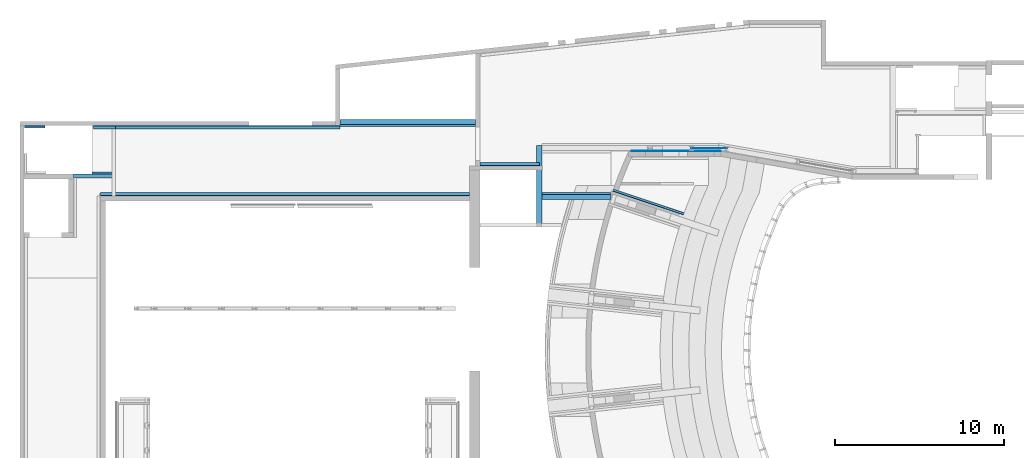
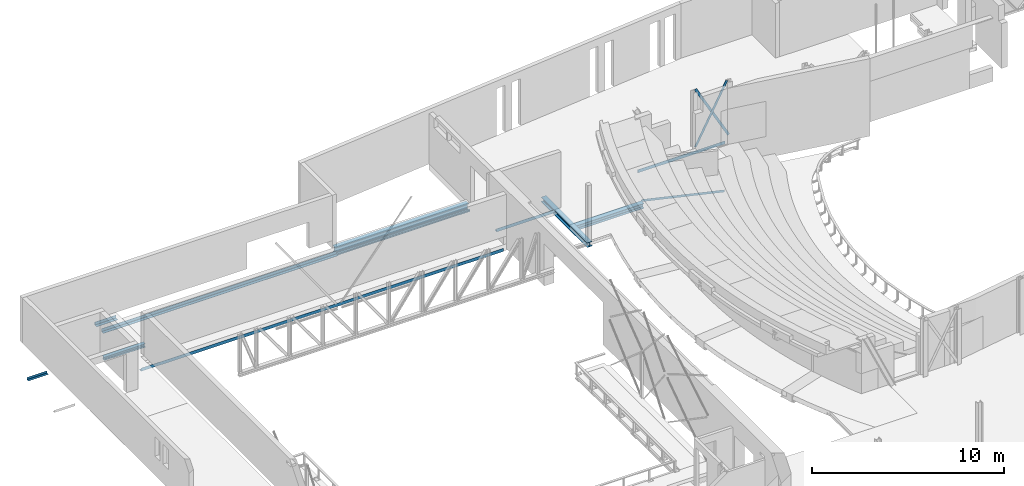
# One storey, part 26 of 68: 14 beams.
"""IFC2X3 building model written with IfcOpenShell, lengths in millimetres."""

from ifc_helpers import new_model, entity, si_unit, converted_unit, derived_unit, direction, frame, frame_2d, origin, origin_2d_with_axis, place, context, subcontext, project, spatial, polyline, circle_curve, parameter, trimmed, segment, composite_curve, rectangle, outline, extrude, source, transform, mapped, material, material_list, type_object, type_shapes, element, save


model = new_model("IFC2X3")

# Units and contexts
model_context = context("Model", 3, precision=0.01, world=origin(), true_north=direction((6.12303176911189e-17, 1.0)))
body_context = subcontext(model_context, "Body", "Model", "MODEL_VIEW")
ifc_project = project(units=[si_unit("LENGTHUNIT", "METRE", prefix="MILLI"), si_unit("AREAUNIT", "SQUARE_METRE", prefix="MILLI"), si_unit("VOLUMEUNIT", "CUBIC_METRE"), converted_unit("PLANEANGLEUNIT", "DEGREE", entity("IfcRatioMeasure", 0.0174532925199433), si_unit("PLANEANGLEUNIT", "RADIAN"), dimensions=[0, 0, 0, 0, 0, 0, 0]), si_unit("MASSUNIT", "GRAM", prefix="KILO"), derived_unit("MASSDENSITYUNIT", [(si_unit("MASSUNIT", "GRAM", prefix="KILO"), 1), (si_unit("LENGTHUNIT", "METRE"), -3)]), derived_unit("MOMENTOFINERTIAUNIT", [(si_unit("LENGTHUNIT", "METRE"), 4)]), si_unit("TIMEUNIT", "SECOND"), si_unit("FREQUENCYUNIT", "HERTZ"), si_unit("THERMODYNAMICTEMPERATUREUNIT", "DEGREE_CELSIUS"), derived_unit("THERMALTRANSMITTANCEUNIT", [(si_unit("MASSUNIT", "GRAM", prefix="KILO"), 1), (si_unit("THERMODYNAMICTEMPERATUREUNIT", "KELVIN"), -1), (si_unit("TIMEUNIT", "SECOND"), -3)]), derived_unit("VOLUMETRICFLOWRATEUNIT", [(si_unit("LENGTHUNIT", "METRE"), 3), (si_unit("TIMEUNIT", "SECOND"), -1)]), si_unit("ELECTRICCURRENTUNIT", "AMPERE"), si_unit("ELECTRICVOLTAGEUNIT", "VOLT"), si_unit("POWERUNIT", "WATT"), si_unit("FORCEUNIT", "NEWTON", prefix="KILO"), si_unit("ILLUMINANCEUNIT", "LUX"), si_unit("LUMINOUSFLUXUNIT", "LUMEN"), si_unit("LUMINOUSINTENSITYUNIT", "CANDELA"), derived_unit("USERDEFINED", [(si_unit("MASSUNIT", "GRAM", prefix="KILO"), -1), (si_unit("LENGTHUNIT", "METRE"), -2), (si_unit("TIMEUNIT", "SECOND"), 3), (si_unit("LUMINOUSFLUXUNIT", "LUMEN"), 1)]), derived_unit("LINEARVELOCITYUNIT", [(si_unit("LENGTHUNIT", "METRE"), 1), (si_unit("TIMEUNIT", "SECOND"), -1)]), si_unit("PRESSUREUNIT", "PASCAL"), derived_unit("USERDEFINED", [(si_unit("LENGTHUNIT", "METRE"), -2), (si_unit("MASSUNIT", "GRAM", prefix="KILO"), 1), (si_unit("TIMEUNIT", "SECOND"), -2)]), derived_unit("LINEARFORCEUNIT", [(si_unit("MASSUNIT", "GRAM", prefix="KILO"), 1), (si_unit("LENGTHUNIT", "METRE"), 1), (si_unit("TIMEUNIT", "SECOND"), -2), (si_unit("LENGTHUNIT", "METRE"), -1)]), derived_unit("PLANARFORCEUNIT", [(si_unit("MASSUNIT", "GRAM", prefix="KILO"), 1), (si_unit("LENGTHUNIT", "METRE"), 1), (si_unit("TIMEUNIT", "SECOND"), -2), (si_unit("LENGTHUNIT", "METRE"), -2)])], contexts=[model_context])

# Site, building, storey
site_placement = place(None, origin())
site = spatial("IfcSite", under=ifc_project, at=site_placement, Name="Theater aan de Parade", CompositionType="ELEMENT")
building_placement = place(site_placement, origin())
building = spatial("IfcBuilding", under=site, at=building_placement, Name="Theater aan de Parade", CompositionType="ELEMENT")
storey_placement = place(building_placement, frame((0.0, 0.0, 8750.0)))
storey = spatial("IfcBuildingStorey", under=building, at=storey_placement, Name="02 tweede verdieping", CompositionType="ELEMENT", Elevation=8750.0)

# Beams
ifc_material_1 = material(Name="00_PBT_MAT_staal_S355")
beam_type_1 = type_object("IfcBeamType", Name="28_PBT_SF_staal_H-profiel (void):S355_HE300B", PredefinedType="NOTDEFINED")
beam_1_placement = place(storey_placement, frame((40963.8581275, 39725.0, 0.0), z_axis=(0.0, 0.0, 1.0), x_axis=(0.0, 1.0, 0.0)))
element("IfcBeam", 1, at=beam_1_placement, inside=storey, type_object=beam_type_1, material=ifc_material_1, Name="28_PBT_SF_staal_H-profiel (void):S355_HE300B", ObjectType="28_PBT_SF_staal_H-profiel (void):S355_HE300B", context=body_context, shape_type="SweptSolid", body=[
    extrude(outline(composite_curve([segment(polyline([(131.0, -150.0), (150.0, -150.0)]), True, "CONTINUOUS"), segment(polyline([(150.0, -150.0), (150.0, 150.0)]), True, "CONTINUOUS"), segment(polyline([(150.0, 150.0), (131.0, 150.0)]), True, "CONTINUOUS"), segment(polyline([(131.0, 150.0), (131.0, 32.5000000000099)]), True, "CONTINUOUS"), segment(trimmed(circle_curve(frame_2d((104.0, 32.5000000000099), x_axis=(1.0, 0.0)), 27.0000000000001), [parameter(270.0)], [parameter(0.0)], True, "PARAMETER"), False, "CONTINUOUS"), segment(polyline([(104.0, 5.50000000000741), (-104.0, 5.50000000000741)]), True, "CONTINUOUS"), segment(trimmed(circle_curve(frame_2d((-104.0, 32.5000000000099), x_axis=(0.0, -1.0)), 27.0000000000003), [parameter(270.0)], [parameter(0.0)], True, "PARAMETER"), False, "CONTINUOUS"), segment(polyline([(-131.0, 32.5000000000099), (-131.0, 150.0)]), True, "CONTINUOUS"), segment(polyline([(-131.0, 150.0), (-150.0, 150.0)]), True, "CONTINUOUS"), segment(polyline([(-150.0, 150.0), (-150.0, -150.0)]), True, "CONTINUOUS"), segment(polyline([(-150.0, -150.0), (-131.0, -150.0)]), True, "CONTINUOUS"), segment(polyline([(-131.0, -150.0), (-131.0, -32.4999999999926)]), True, "CONTINUOUS"), segment(trimmed(circle_curve(frame_2d((-104.0, -32.4999999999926), x_axis=(-1.0, 0.0)), 27.0000000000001), [parameter(270.0)], [parameter(0.0)], True, "PARAMETER"), False, "CONTINUOUS"), segment(polyline([(-104.0, -5.49999999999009), (104.0, -5.49999999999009)]), True, "CONTINUOUS"), segment(trimmed(circle_curve(frame_2d((104.0, -32.4999999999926), x_axis=(0.0, 1.0)), 27.0000000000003), [parameter(270.0)], [parameter(0.0)], True, "PARAMETER"), False, "CONTINUOUS"), segment(polyline([(131.0, -32.4999999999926), (131.0, -150.0)]), True, "CONTINUOUS")], self_intersect=False)), frame((0.0, 0.0, -310.0), z_axis=(1.0, 0.0, 0.0), x_axis=(0.0, 0.0, -1.0)), (0.0, 0.0, 1.0), 4820.00000559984),
])
beam_type_2 = type_object("IfcBeamType", Name="28_PBT_SF_staal_L-profiel:S355_L150x150x15", PredefinedType="NOTDEFINED")
beam_2_placement = place(storey_placement, frame((45310.3317535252, 41879.8108323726, 0.0), z_axis=(0.0, 0.0, 1.0), x_axis=(0.948323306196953, -0.317305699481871, 0.0)))
element("IfcBeam", 2, at=beam_2_placement, inside=storey, type_object=beam_type_2, material=ifc_material_1, Name="28_PBT_SF_staal_L-profiel:S355_L150x150x15", ObjectType="28_PBT_SF_staal_L-profiel:S355_L150x150x15", context=body_context, shape_type="SweptSolid", body=[
    extrude(outline(composite_curve([segment(polyline([(-93.3333333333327, -56.6666666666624), (56.6666666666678, -56.6666666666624)]), True, "CONTINUOUS"), segment(polyline([(56.6666666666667, -56.6666666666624), (56.6666666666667, 93.3333333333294)]), True, "CONTINUOUS"), segment(polyline([(56.6666666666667, 93.3333333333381), (49.6666666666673, 93.3333333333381)]), True, "CONTINUOUS"), segment(trimmed(circle_curve(frame_2d((49.6666666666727, 85.3333333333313), x_axis=(0.0, 1.0)), 8.000000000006), [parameter(0.0)], [parameter(89.9999999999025)], True, "PARAMETER"), True, "CONTINUOUS"), segment(polyline([(41.6666666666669, 85.3333333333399), (41.6666666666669, -25.6666666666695)]), True, "CONTINUOUS"), segment(trimmed(circle_curve(frame_2d((25.6666666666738, -25.6666666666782), x_axis=(1.0, 0.0)), 15.9999999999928), [parameter(269.999999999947)], [parameter(0.0)], True, "PARAMETER"), False, "CONTINUOUS"), segment(polyline([(25.6666666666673, -41.6666666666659), (-85.3333333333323, -41.6666666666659)]), True, "CONTINUOUS"), segment(trimmed(circle_curve(frame_2d((-85.333333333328, -49.6666666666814), x_axis=(0.0, 1.0)), 8.000000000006), [parameter(0.0)], [parameter(89.9999999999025)], True, "PARAMETER"), True, "CONTINUOUS"), segment(polyline([(-93.3333333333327, -49.6666666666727), (-93.3333333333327, -56.6666666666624)]), True, "CONTINUOUS")], self_intersect=False)), frame((0.0, 14.1666666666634, -338.333333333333), z_axis=(1.0, 0.0, 0.0), x_axis=(0.0, 0.0, -1.0)), (0.0, 0.0, 1.0), 4403.43038959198),
])
beam_3_placement = place(storey_placement, frame((10574.1125537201, 45680.4999999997, 0.0)))
element("IfcBeam", 3, at=beam_3_placement, inside=storey, type_object=beam_type_2, material=ifc_material_1, Name="28_PBT_SF_staal_L-profiel:S355_L150x150x15", ObjectType="28_PBT_SF_staal_L-profiel:S355_L150x150x15", context=body_context, shape_type="SweptSolid", body=[
    extrude(outline(composite_curve([segment(polyline([(49.6666666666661, -93.3333333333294), (56.6666666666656, -93.3333333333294)]), True, "CONTINUOUS"), segment(polyline([(56.6666666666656, -93.3333333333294), (56.6666666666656, 56.6666666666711)]), True, "CONTINUOUS"), segment(polyline([(56.6666666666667, 56.6666666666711), (-93.3333333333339, 56.6666666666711)]), True, "CONTINUOUS"), segment(polyline([(-93.3333333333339, 56.6666666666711), (-93.3333333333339, 49.6666666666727)]), True, "CONTINUOUS"), segment(trimmed(circle_curve(frame_2d((-85.3333333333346, 49.6666666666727), x_axis=(-1.0, 0.0)), 7.99999999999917), [parameter(0.0)], [parameter(90.0000000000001)], True, "PARAMETER"), True, "CONTINUOUS"), segment(polyline([(-85.3333333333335, 41.6666666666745), (25.6666666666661, 41.6666666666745)]), True, "CONTINUOUS"), segment(trimmed(circle_curve(frame_2d((25.6666666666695, 25.6666666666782), x_axis=(0.0, 1.0)), 15.9999999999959), [parameter(269.999999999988)], [parameter(0.0)], True, "PARAMETER"), False, "CONTINUOUS"), segment(polyline([(41.6666666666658, 25.6666666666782), (41.6666666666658, -85.3333333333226)]), True, "CONTINUOUS"), segment(trimmed(circle_curve(frame_2d((49.6666666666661, -85.3333333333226), x_axis=(-1.0, 0.0)), 7.99999999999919), [parameter(0.0)], [parameter(90.0000000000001)], True, "PARAMETER"), True, "CONTINUOUS")], self_intersect=False)), frame((0.0, -14.1666666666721, -1848.33333333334), z_axis=(1.0, 0.0, 0.0), x_axis=(0.0, 0.0, -1.0)), (0.0, 0.0, 1.0), 1205.21531551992),
])
beam_type_3 = type_object("IfcBeamType", Name="28_PBT_SF_staal_L-profiel:S355_L200x200x20", PredefinedType="NOTDEFINED")
beam_4_placement = place(storey_placement, frame((15053.8570025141, 41630.1083270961, 0.0)))
element("IfcBeam", 4, at=beam_4_placement, inside=storey, type_object=beam_type_3, material=ifc_material_1, Name="28_PBT_SF_staal_L-profiel:S355_L200x200x20", ObjectType="28_PBT_SF_staal_L-profiel:S355_L200x200x20", context=body_context, shape_type="SweptSolid", body=[
    extrude(outline(composite_curve([segment(polyline([(-124.444444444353, -75.5555555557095), (75.555555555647, -75.5555555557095)]), True, "CONTINUOUS"), segment(polyline([(75.555555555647, -75.555555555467), (75.5555555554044, 124.444444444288)]), True, "CONTINUOUS"), segment(polyline([(75.5555555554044, 124.444444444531), (64.5555555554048, 124.444444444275)]), True, "CONTINUOUS"), segment(trimmed(circle_curve(frame_2d((64.5555555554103, 115.44444444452), x_axis=(0.0, 1.0)), 8.99999999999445), [parameter(0.0)], [parameter(90.0000000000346)], True, "PARAMETER"), True, "CONTINUOUS"), segment(polyline([(55.5555555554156, 115.444444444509), (55.5555555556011, -37.5555555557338)]), True, "CONTINUOUS"), segment(trimmed(circle_curve(frame_2d((37.5555555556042, -37.555555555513), x_axis=(1.0, 0.0)), 17.9999999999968), [parameter(269.99999999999)], [parameter(0.0)], True, "PARAMETER"), False, "CONTINUOUS"), segment(polyline([(37.5555555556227, -55.5555555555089), (-115.444444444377, -55.5555555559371)]), True, "CONTINUOUS"), segment(trimmed(circle_curve(frame_2d((-115.444444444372, -64.5555555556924), x_axis=(0.0, 1.0)), 8.99999999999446), [parameter(0.0)], [parameter(90.0000000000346)], True, "PARAMETER"), True, "CONTINUOUS"), segment(polyline([(-124.444444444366, -64.5555555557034), (-124.444444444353, -75.5555555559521)]), True, "CONTINUOUS")], self_intersect=False)), frame((0.0, 18.7555555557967, -349.444444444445), z_axis=(1.0, 0.0, 0.0), x_axis=(0.0, 0.0, -1.0)), (0.0, 0.0, 1.0), 21800.0011275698),
])
beam_5_placement = place(storey_placement, frame((15053.8570025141, 45666.1999999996, 0.0)))
element("IfcBeam", 5, at=beam_5_placement, inside=storey, type_object=beam_type_3, material=ifc_material_1, Name="28_PBT_SF_staal_L-profiel:S355_L200x200x20", ObjectType="28_PBT_SF_staal_L-profiel:S355_L200x200x20", context=body_context, shape_type="SweptSolid", body=[
    extrude(outline(composite_curve([segment(polyline([(64.5555555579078, -124.44444444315), (75.5555555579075, -124.44444444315)]), True, "CONTINUOUS"), segment(polyline([(75.5555555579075, -124.444444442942), (75.5555555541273, 75.5555555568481)]), True, "CONTINUOUS"), segment(polyline([(75.5555555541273, 75.555555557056), (-124.444444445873, 75.5555555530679)]), True, "CONTINUOUS"), segment(polyline([(-124.444444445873, 75.5555555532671), (-124.444444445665, 64.5555555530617)]), True, "CONTINUOUS"), segment(trimmed(circle_curve(frame_2d((-115.44444444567, 64.5555555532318), x_axis=(-1.0, 0.0)), 8.99999999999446), [parameter(0.0)], [parameter(90.0000000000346)], True, "PARAMETER"), True, "CONTINUOUS"), segment(polyline([(-115.444444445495, 55.5555555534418), (37.5555555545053, 55.5555555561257)]), True, "CONTINUOUS"), segment(trimmed(circle_curve(frame_2d((37.5555555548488, 37.5555555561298), x_axis=(0.0, 1.0)), 17.9999999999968), [parameter(269.99999999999)], [parameter(0.0)], True, "PARAMETER"), False, "CONTINUOUS"), segment(polyline([(55.5555555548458, 37.5555555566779), (55.5555555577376, -115.44444444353)]), True, "CONTINUOUS"), segment(trimmed(circle_curve(frame_2d((64.5555555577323, -115.44444444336), x_axis=(-1.0, 0.0)), 8.99999999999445), [parameter(0.0)], [parameter(90.0000000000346)], True, "PARAMETER"), True, "CONTINUOUS")], self_intersect=False)), frame((0.0, -18.7555555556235, -349.444444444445), z_axis=(1.0, 0.0, 0.0), x_axis=(0.0, 0.0, -1.0)), (0.0, 0.0, 1.0), 14135.0405637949),
])
beam_6_placement = place(storey_placement, frame((14654.303232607, 45666.1999999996, 0.0)))
element("IfcBeam", 6, at=beam_6_placement, inside=storey, type_object=beam_type_3, material=ifc_material_1, Name="28_PBT_SF_staal_L-profiel:S355_L200x200x20", ObjectType="28_PBT_SF_staal_L-profiel:S355_L200x200x20", context=body_context, shape_type="SweptSolid", body=[
    extrude(outline(composite_curve([segment(polyline([(64.5555555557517, -124.444444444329), (75.5555555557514, -124.444444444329)]), True, "CONTINUOUS"), segment(polyline([(75.5555555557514, -124.444444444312), (75.5555555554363, 75.5555555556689)]), True, "CONTINUOUS"), segment(polyline([(75.5555555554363, 75.5555555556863), (-124.444444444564, 75.5555555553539)]), True, "CONTINUOUS"), segment(polyline([(-124.444444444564, 75.5555555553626), (-124.444444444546, 64.5555555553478)]), True, "CONTINUOUS"), segment(trimmed(circle_curve(frame_2d((-115.444444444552, 64.5555555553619), x_axis=(-1.0, 0.0)), 8.99999999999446), [parameter(0.0)], [parameter(90.0000000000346)], True, "PARAMETER"), True, "CONTINUOUS"), segment(polyline([(-115.444444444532, 55.5555555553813), (37.5555555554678, 55.555555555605)]), True, "CONTINUOUS"), segment(trimmed(circle_curve(frame_2d((37.5555555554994, 37.5555555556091), x_axis=(0.0, 1.0)), 17.9999999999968), [parameter(269.99999999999)], [parameter(0.0)], True, "PARAMETER"), False, "CONTINUOUS"), segment(polyline([(55.5555555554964, 37.5555555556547), (55.5555555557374, -115.444444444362)]), True, "CONTINUOUS"), segment(trimmed(circle_curve(frame_2d((64.5555555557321, -115.444444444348), x_axis=(-1.0, 0.0)), 8.99999999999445), [parameter(0.0)], [parameter(90.0000000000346)], True, "PARAMETER"), True, "CONTINUOUS")], self_intersect=False)), frame((0.0, -18.7555555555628, 215.555555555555), z_axis=(1.0, 0.0, 0.0), x_axis=(0.0, 0.0, -1.0)), (0.0, 0.0, 1.0), 1280.69676739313),
])
beam_7_placement = place(storey_placement, frame((40963.8581275, 43406.8000000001, 0.0), z_axis=(0.0, 0.0, 1.0), x_axis=(-1.0, 0.0, 0.0)))
element("IfcBeam", 7, at=beam_7_placement, inside=storey, type_object=beam_type_3, material=ifc_material_1, Name="28_PBT_SF_staal_L-profiel:S355_L200x200x20", ObjectType="28_PBT_SF_staal_L-profiel:S355_L200x200x20", context=body_context, shape_type="SweptSolid", body=[
    extrude(outline(composite_curve([segment(polyline([(64.5555555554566, -124.444444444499), (75.5555555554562, -124.444444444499)]), True, "CONTINUOUS"), segment(polyline([(75.5555555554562, -124.444444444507), (75.5555555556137, 75.5555555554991)]), True, "CONTINUOUS"), segment(polyline([(75.5555555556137, 75.5555555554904), (-124.444444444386, 75.5555555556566)]), True, "CONTINUOUS"), segment(polyline([(-124.444444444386, 75.5555555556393), (-124.444444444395, 64.5555555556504)]), True, "CONTINUOUS"), segment(trimmed(circle_curve(frame_2d((-115.4444444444, 64.5555555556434), x_axis=(-1.0, 0.0)), 8.99999999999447), [parameter(0.0)], [parameter(90.0000000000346)], True, "PARAMETER"), True, "CONTINUOUS"), segment(polyline([(-115.444444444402, 55.5555555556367), (37.555555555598, 55.5555555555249)]), True, "CONTINUOUS"), segment(trimmed(circle_curve(frame_2d((37.5555555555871, 37.555555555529), x_axis=(0.0, 1.0)), 17.9999999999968), [parameter(269.99999999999)], [parameter(0.0)], True, "PARAMETER"), False, "CONTINUOUS"), segment(polyline([(55.555555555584, 37.5555555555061), (55.5555555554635, -115.444444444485)]), True, "CONTINUOUS"), segment(trimmed(circle_curve(frame_2d((64.5555555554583, -115.444444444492), x_axis=(-1.0, 0.0)), 8.99999999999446), [parameter(0.0)], [parameter(90.0000000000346)], True, "PARAMETER"), True, "CONTINUOUS")], self_intersect=False)), frame((0.0, -18.7555555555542, -409.444444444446), z_axis=(1.0, 0.0, 0.0), x_axis=(0.0, 0.0, -1.0)), (0.0, 0.0, 1.0), 3509.99999741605),
])
ifc_material_2 = material(Name="00_PBT_MAT_staal_S235")
beam_type_4 = type_object("IfcBeamType", Name="28_PBT_SF_staal_koker:S235_K80x120x6.3", PredefinedType="NOTDEFINED")
beam_8_placement = place(storey_placement, frame((29188.8975663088, 45675.0, 0.0)))
element("IfcBeam", 8, at=beam_8_placement, inside=storey, type_object=beam_type_4, material=ifc_material_2, Name="28_PBT_SF_staal_koker:S235_K80x120x6.3", ObjectType="28_PBT_SF_staal_koker:S235_K80x120x6.3", context=body_context, shape_type="SweptSolid", body=[
    extrude(outline(composite_curve([segment(polyline([(-30.5500000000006, -60.0), (30.5499999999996, -60.0)]), True, "CONTINUOUS"), segment(trimmed(circle_curve(frame_2d((30.5499999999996, -50.5500000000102), x_axis=(0.0, 1.0)), 9.45), [parameter(180.0)], [parameter(270.0)], True, "PARAMETER"), True, "CONTINUOUS"), segment(polyline([(40.0, -50.5500000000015), (40.0, 50.5500000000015)]), True, "CONTINUOUS"), segment(trimmed(circle_curve(frame_2d((30.5499999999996, 50.5499999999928), x_axis=(0.0, 1.0)), 9.45), [parameter(270.0)], [parameter(360.0)], True, "PARAMETER"), True, "CONTINUOUS"), segment(polyline([(30.5499999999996, 60.0), (-30.5500000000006, 60.0)]), True, "CONTINUOUS"), segment(trimmed(circle_curve(frame_2d((-30.5500000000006, 50.5499999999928), x_axis=(0.0, 1.0)), 9.45), [parameter(0.0)], [parameter(90.0000000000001)], True, "PARAMETER"), True, "CONTINUOUS"), segment(polyline([(-40.0, 50.5500000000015), (-40.0, -50.5500000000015)]), True, "CONTINUOUS"), segment(trimmed(circle_curve(frame_2d((-30.5500000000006, -50.5500000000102), x_axis=(0.0, 1.0)), 9.45), [parameter(90.0)], [parameter(180.0)], True, "PARAMETER"), True, "CONTINUOUS")], self_intersect=False), holes=[composite_curve([segment(polyline([(33.6999999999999, 47.3999999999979), (33.6999999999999, -47.3999999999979)]), True, "CONTINUOUS"), segment(trimmed(circle_curve(frame_2d((27.3999999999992, -47.4000000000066), x_axis=(0.0, 1.0)), 6.3), [parameter(180.0)], [parameter(270.0)], True, "PARAMETER"), False, "CONTINUOUS"), segment(polyline([(27.3999999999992, -53.6999999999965), (-27.4000000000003, -53.6999999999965)]), True, "CONTINUOUS"), segment(trimmed(circle_curve(frame_2d((-27.4000000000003, -47.4000000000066), x_axis=(0.0, 1.0)), 6.3), [parameter(90.0)], [parameter(180.0)], True, "PARAMETER"), False, "CONTINUOUS"), segment(polyline([(-33.6999999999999, -47.3999999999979), (-33.6999999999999, 47.3999999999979)]), True, "CONTINUOUS"), segment(trimmed(circle_curve(frame_2d((-27.4000000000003, 47.3999999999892), x_axis=(0.0, 1.0)), 6.3), [parameter(4.07110999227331e-13)], [parameter(90.0000000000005)], True, "PARAMETER"), False, "CONTINUOUS"), segment(polyline([(-27.4000000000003, 53.6999999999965), (27.3999999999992, 53.6999999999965)]), True, "CONTINUOUS"), segment(trimmed(circle_curve(frame_2d((27.3999999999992, 47.3999999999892), x_axis=(0.0, 1.0)), 6.3), [parameter(270.0)], [parameter(360.0)], True, "PARAMETER"), False, "CONTINUOUS")], self_intersect=False)]), frame((0.0, 60.0, -445.0), z_axis=(1.0, 0.0, 0.0), x_axis=(0.0, 0.0, 1.0)), (0.0, 0.0, 1.0), 8014.96056377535),
])
ifc_material_3 = material(Name="00_PBT_MAT_staal")
beam_type_5 = type_object("IfcBeamType", Name="28_PBT_SF_staal_strip:strip 10x150", PredefinedType="NOTDEFINED")
beam_9_placement = place(storey_placement, frame((49940.268563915, 44395.0, -236.716158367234), z_axis=(0.8837857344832, 0.0, -0.467891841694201), x_axis=(0.467891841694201, 0.0, 0.8837857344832)))
element("IfcBeam", 9, at=beam_9_placement, inside=storey, type_object=beam_type_5, material=ifc_material_3, Name="28_PBT_SF_staal_strip:strip 10x150", ObjectType="28_PBT_SF_staal_strip:strip 10x150", context=body_context, shape_type="SweptSolid", body=[
    extrude(rectangle(XDim=150.000000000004, YDim=9.99999999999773, at=frame_2d((-4.83879603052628e-12, 0.0), x_axis=(1.0, 0.0))), frame((147.581027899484, 0.0, 0.0), z_axis=(1.0, 0.0, 0.0), x_axis=(0.0, 0.0, -1.0)), (0.0, 0.0, 1.0), 4038.96458765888),
])
beam_10_placement = place(storey_placement, frame((49944.0642577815, 44395.0, 3699.43295331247), z_axis=(0.87404997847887, 0.0, 0.48583601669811), x_axis=(0.48583601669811, 0.0, -0.87404997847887)))
element("IfcBeam", 10, at=beam_10_placement, inside=storey, type_object=beam_type_5, material=ifc_material_3, Name="28_PBT_SF_staal_strip:strip 10x150", ObjectType="28_PBT_SF_staal_strip:strip 10x150", context=body_context, shape_type="SweptSolid", body=[
    extrude(rectangle(XDim=149.999999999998, YDim=9.99999999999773, at=origin_2d_with_axis()), frame((147.581027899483, 0.0, 0.0), z_axis=(1.0, 0.0, 0.0), x_axis=(0.0, 0.0, -1.0)), (0.0, 0.0, 1.0), 4102.19871328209),
])
ifc_material_4 = material(Name="00_PBT_MAT_Lucht")
ifc_material_list_1 = material_list([ifc_material_4, ifc_material_1])
beam_type_6 = type_object("IfcBeamType", Name="28_PBT_SF_staal_H-profiel_met_ondergelaste_strip (void):S355_HE400B + ondergelaste strip", PredefinedType="BEAM", material=ifc_material_list_1)
shared_shape_1 = source(origin(), body_context, "Body", "SweptSolid", [
    extrude(outline(composite_curve([segment(polyline([(176.0, -150.0), (200.0, -150.0)]), True, "CONTINUOUS"), segment(polyline([(200.0, -150.0), (200.0, 150.0)]), True, "CONTINUOUS"), segment(polyline([(200.0, 150.0), (176.0, 150.0)]), True, "CONTINUOUS"), segment(polyline([(176.0, 150.0), (176.0, 33.7499999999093)]), True, "CONTINUOUS"), segment(trimmed(circle_curve(frame_2d((149.0, 33.7499999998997), x_axis=(1.0, 0.0)), 27.0000000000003), [parameter(270.0)], [parameter(0.0)], True, "PARAMETER"), False, "CONTINUOUS"), segment(polyline([(149.0, 6.74999999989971), (-149.0, 6.75000000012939)]), True, "CONTINUOUS"), segment(trimmed(circle_curve(frame_2d((-149.0, 33.7500000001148), x_axis=(0.0, -1.0)), 27.0000000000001), [parameter(270.0)], [parameter(0.0)], True, "PARAMETER"), False, "CONTINUOUS"), segment(polyline([(-176.0, 33.7500000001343), (-176.0, 150.0)]), True, "CONTINUOUS"), segment(polyline([(-176.0, 150.0), (-200.0, 150.0)]), True, "CONTINUOUS"), segment(polyline([(-200.0, 150.0), (-200.0, -150.0)]), True, "CONTINUOUS"), segment(polyline([(-200.0, -150.0), (-176.0, -150.0)]), True, "CONTINUOUS"), segment(polyline([(-176.0, -150.0), (-176.0, -33.7499999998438)]), True, "CONTINUOUS"), segment(trimmed(circle_curve(frame_2d((-149.0, -33.7499999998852), x_axis=(-1.0, 0.0)), 27.0000000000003), [parameter(270.0)], [parameter(0.0)], True, "PARAMETER"), False, "CONTINUOUS"), segment(polyline([(-149.0, -6.74999999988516), (149.0, -6.75000000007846)]), True, "CONTINUOUS"), segment(trimmed(circle_curve(frame_2d((149.0, -33.7500000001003), x_axis=(0.0, 1.0)), 27.0000000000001), [parameter(270.0)], [parameter(0.0)], True, "PARAMETER"), False, "CONTINUOUS"), segment(polyline([(176.0, -33.7500000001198), (176.0, -150.0)]), True, "CONTINUOUS")], self_intersect=False)), frame((29188.8975663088, 45950.0, 8465.0), z_axis=(1.0, 0.0, 0.0), x_axis=(0.0, 0.0, -1.0)), (0.0, 0.0, 1.0), 8014.96056377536),
    extrude(rectangle(XDim=14.9999999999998, YDim=420.0, at=frame_2d((0.0, 2.16573425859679e-11), x_axis=(1.0, 0.0))), frame((29189.8975663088, 45885.0, 8257.5), z_axis=(1.0, 0.0, 0.0), x_axis=(0.0, 0.0, -1.0)), (0.0, 0.0, 1.0), 8012.96056377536),
])
type_shapes(beam_type_6, [shared_shape_1])
beam_11_placement = place(storey_placement, frame((0.0, 0.0, -8750.0)))
element("IfcBeam", 11, at=beam_11_placement, inside=storey, type_object=beam_type_6, material=ifc_material_1, Name="28_PBT_SF_staal_H-profiel_met_ondergelaste_strip (void):S355_HE400B + ondergelaste strip", ObjectType="28_PBT_SF_staal_H-profiel_met_ondergelaste_strip (void):S355_HE400B + ondergelaste strip", context=body_context, shape_type="MappedRepresentation", body=[
    mapped(shared_shape_1, transform((0.0, 0.0, 0.0), scale=1.0)),
])
ifc_material_list_2 = material_list([ifc_material_1, ifc_material_4])
beam_type_7 = type_object("IfcBeamType", Name="28_PBT_SF_staal_H-profiel_met_ondergelaste_strip (void):S355_HE220A + ondergelaste strip d=12", PredefinedType="BEAM", material=ifc_material_list_2)
shared_shape_2 = source(origin(), body_context, "Body", "SweptSolid", [
    extrude(outline(composite_curve([segment(polyline([(94.0, -110.0), (105.0, -110.0)]), True, "CONTINUOUS"), segment(polyline([(105.0, -110.0), (105.0, 110.0)]), True, "CONTINUOUS"), segment(polyline([(105.0, 110.0), (94.0, 110.0)]), True, "CONTINUOUS"), segment(polyline([(94.0, 110.0), (94.0, 21.5000000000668)]), True, "CONTINUOUS"), segment(trimmed(circle_curve(frame_2d((76.0, 21.5000000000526), x_axis=(1.0, 0.0)), 17.9999999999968), [parameter(269.99999999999)], [parameter(0.0)], True, "PARAMETER"), False, "CONTINUOUS"), segment(polyline([(76.0, 3.50000000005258), (-76.0, 3.4999999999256)]), True, "CONTINUOUS"), segment(trimmed(circle_curve(frame_2d((-76.0, 21.4999999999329), x_axis=(0.0, -1.0)), 17.9999999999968), [parameter(269.99999999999)], [parameter(0.0)], True, "PARAMETER"), False, "CONTINUOUS"), segment(polyline([(-94.0, 21.4999999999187), (-94.0, 110.0)]), True, "CONTINUOUS"), segment(polyline([(-94.0, 110.0), (-105.0, 110.0)]), True, "CONTINUOUS"), segment(polyline([(-105.0, 110.0), (-105.0, -110.0)]), True, "CONTINUOUS"), segment(polyline([(-105.0, -110.0), (-94.0, -110.0)]), True, "CONTINUOUS"), segment(polyline([(-94.0, -110.0), (-94.0, -21.5000000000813)]), True, "CONTINUOUS"), segment(trimmed(circle_curve(frame_2d((-76.0, -21.5000000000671), x_axis=(-1.0, 0.0)), 17.9999999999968), [parameter(269.99999999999)], [parameter(0.0)], True, "PARAMETER"), False, "CONTINUOUS"), segment(polyline([(-76.0, -3.50000000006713), (76.0, -3.4999999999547)]), True, "CONTINUOUS"), segment(trimmed(circle_curve(frame_2d((76.0, -21.4999999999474), x_axis=(0.0, 1.0)), 17.9999999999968), [parameter(269.99999999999)], [parameter(0.0)], True, "PARAMETER"), False, "CONTINUOUS"), segment(polyline([(94.0, -21.4999999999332), (94.0, -110.0)]), True, "CONTINUOUS")], self_intersect=False)), frame((13454.8570025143, 42760.0, 9015.0), z_axis=(1.0, 0.0, 0.0), x_axis=(0.0, 0.0, -1.0)), (0.0, 0.0, 1.0), 2480.14299748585),
    extrude(rectangle(XDim=12.0000000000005, YDim=340.000000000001, at=frame_2d((0.0, -4.33431068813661e-12), x_axis=(1.0, 0.0))), frame((14563.8570025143, 42825.0, 8904.0), z_axis=(1.0, 0.0, 0.0), x_axis=(0.0, 0.0, -1.0)), (0.0, 0.0, 1.0), 1370.14299748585),
])
type_shapes(beam_type_7, [shared_shape_2])
beam_12_placement = place(storey_placement, frame((0.0, 0.0, -8750.0)))
element("IfcBeam", 12, at=beam_12_placement, inside=storey, type_object=beam_type_7, material=ifc_material_1, Name="28_PBT_SF_staal_H-profiel_met_ondergelaste_strip (void):S355_HE220A + ondergelaste strip d=12", ObjectType="28_PBT_SF_staal_H-profiel_met_ondergelaste_strip (void):S355_HE220A + ondergelaste strip d=12", context=body_context, shape_type="MappedRepresentation", body=[
    mapped(shared_shape_2, transform((0.0, 0.0, 0.0), scale=1.0)),
])
ifc_material_list_3 = material_list([ifc_material_1, ifc_material_4])
beam_type_8 = type_object("IfcBeamType", Name="28_PBT_SF_staal_H-profiel_met_ondergelaste_strip (void):S355_HE300B + ondergelaste strip d=12", PredefinedType="BEAM", material=ifc_material_list_3)
shared_shape_3 = source(origin(), body_context, "Body", "SweptSolid", [
    extrude(outline(composite_curve([segment(polyline([(131.0, -150.0), (150.0, -150.0)]), True, "CONTINUOUS"), segment(polyline([(150.0, -150.0), (150.0, 150.0)]), True, "CONTINUOUS"), segment(polyline([(150.0, 150.0), (131.0, 150.0)]), True, "CONTINUOUS"), segment(polyline([(131.0, 150.0), (131.0, 32.5000000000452)]), True, "CONTINUOUS"), segment(trimmed(circle_curve(frame_2d((104.0, 32.5000000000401), x_axis=(1.0, 0.0)), 27.0000000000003), [parameter(270.0)], [parameter(0.0)], True, "PARAMETER"), False, "CONTINUOUS"), segment(polyline([(104.0, 5.50000000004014), (-104.0, 5.49999999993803)]), True, "CONTINUOUS"), segment(trimmed(circle_curve(frame_2d((-104.0, 32.4999999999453), x_axis=(0.0, -1.0)), 27.0000000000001), [parameter(270.0)], [parameter(0.0)], True, "PARAMETER"), False, "CONTINUOUS"), segment(polyline([(-131.0, 32.499999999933), (-131.0, 150.0)]), True, "CONTINUOUS"), segment(polyline([(-131.0, 150.0), (-150.0, 150.0)]), True, "CONTINUOUS"), segment(polyline([(-150.0, 150.0), (-150.0, -150.0)]), True, "CONTINUOUS"), segment(polyline([(-150.0, -150.0), (-131.0, -150.0)]), True, "CONTINUOUS"), segment(polyline([(-131.0, -150.0), (-131.0, -32.5000000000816)]), True, "CONTINUOUS"), segment(trimmed(circle_curve(frame_2d((-104.0, -32.5000000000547), x_axis=(-1.0, 0.0)), 27.0000000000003), [parameter(270.0)], [parameter(0.0)], True, "PARAMETER"), False, "CONTINUOUS"), segment(polyline([(-104.0, -5.50000000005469), (104.0, -5.49999999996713)]), True, "CONTINUOUS"), segment(trimmed(circle_curve(frame_2d((104.0, -32.4999999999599), x_axis=(0.0, 1.0)), 27.0000000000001), [parameter(270.0)], [parameter(0.0)], True, "PARAMETER"), False, "CONTINUOUS"), segment(polyline([(131.0, -32.4999999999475), (131.0, -150.0)]), True, "CONTINUOUS")], self_intersect=False)), frame((45185.0, 41510.0, 8435.0), z_axis=(-1.0, 0.0, 0.0), x_axis=(0.0, 0.0, -1.0)), (0.0, 0.0, 1.0), 4071.14187250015),
    extrude(rectangle(XDim=12.0000000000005, YDim=420.0, at=frame_2d((0.0, -4.32009983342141e-12), x_axis=(1.0, 0.0))), frame((45184.0, 41575.0, 8279.0), z_axis=(-1.0, 0.0, 0.0), x_axis=(0.0, 0.0, -1.0)), (0.0, 0.0, 1.0), 4069.14187250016),
])
type_shapes(beam_type_8, [shared_shape_3])
beam_13_placement = place(storey_placement, frame((0.0, 0.0, -8750.0)))
element("IfcBeam", 13, at=beam_13_placement, inside=storey, type_object=beam_type_8, material=ifc_material_1, Name="28_PBT_SF_staal_H-profiel_met_ondergelaste_strip (void):S355_HE300B + ondergelaste strip d=12", ObjectType="28_PBT_SF_staal_H-profiel_met_ondergelaste_strip (void):S355_HE300B + ondergelaste strip d=12", context=body_context, shape_type="MappedRepresentation", body=[
    mapped(shared_shape_3, transform((0.0, 0.0, 0.0), scale=1.0)),
])
beam_type_9 = type_object("IfcBeamType", Name="28_PBT_SF_staal_strip:trekstrip 20x200", PredefinedType="NOTDEFINED")
beam_14_placement = place(storey_placement, frame((46439.0610079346, 44210.0, 0.0)))
element("IfcBeam", 14, at=beam_14_placement, inside=storey, type_object=beam_type_9, material=ifc_material_3, Name="28_PBT_SF_staal_strip:trekstrip 20x200", ObjectType="28_PBT_SF_staal_strip:trekstrip 20x200", context=body_context, shape_type="SweptSolid", body=[
    extrude(rectangle(XDim=200.0, YDim=19.9999999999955, at=frame_2d((0.0, -2.07910133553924e-10), x_axis=(1.0, 0.0))), frame((0.0, 10.0, -300.0), z_axis=(1.0, 0.0, 0.0), x_axis=(0.0, 0.0, -1.0)), (0.0, 0.0, 1.0), 5230.93899206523),
])

save(model, "model.ifc")
